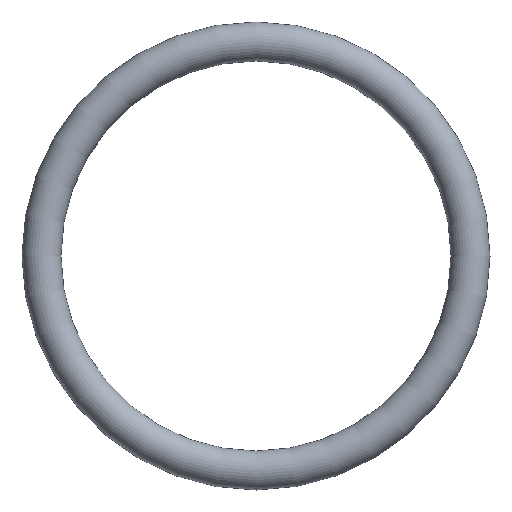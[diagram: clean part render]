
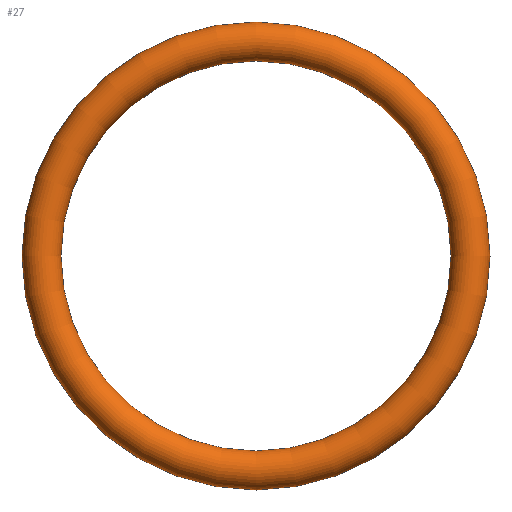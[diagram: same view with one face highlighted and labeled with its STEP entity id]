
A CAD part, front view. The second image highlights one B-rep face of the part: STEP entity #27.
In plain terms, the highlighted toroidal (fillet/blend) face has major radius 8.255 mm and minor radius 0.749 mm.
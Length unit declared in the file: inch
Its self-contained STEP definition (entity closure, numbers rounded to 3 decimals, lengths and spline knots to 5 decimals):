
#15=FACE_OUTER_BOUND('',#16,.T.);
#16=EDGE_LOOP('',(#22,#23,#24,#25));
#17=CIRCLE('',#43,0.0295);
#18=CIRCLE('',#44,0.2955);
#19=VERTEX_POINT('',#55);
#20=EDGE_CURVE('',#19,#19,#17,.T.);
#21=EDGE_CURVE('',#19,#19,#18,.T.);
#22=ORIENTED_EDGE('',*,*,#20,.F.);
#23=ORIENTED_EDGE('',*,*,#21,.T.);
#24=ORIENTED_EDGE('',*,*,#20,.T.);
#25=ORIENTED_EDGE('',*,*,#21,.F.);
#26=TOROIDAL_SURFACE('',#42,0.325,0.0295);
#27=ADVANCED_FACE('',(#15),#26,.T.);
#42=AXIS2_PLACEMENT_3D('',#54,#47,#48);
#43=AXIS2_PLACEMENT_3D('',#56,#49,#50);
#44=AXIS2_PLACEMENT_3D('',#57,#51,#52);
#47=DIRECTION('center_axis',(0.,-1.,0.));
#48=DIRECTION('ref_axis',(0.,0.,-1.));
#49=DIRECTION('center_axis',(-1.,0.,0.));
#50=DIRECTION('ref_axis',(0.,0.,1.));
#51=DIRECTION('center_axis',(0.,1.,0.));
#52=DIRECTION('ref_axis',(0.,0.,-1.));
#54=CARTESIAN_POINT('Origin',(0.,0.,0.));
#55=CARTESIAN_POINT('',(0.,0.,0.2955));
#56=CARTESIAN_POINT('Origin',(0.,0.,0.325));
#57=CARTESIAN_POINT('Origin',(0.,0.,0.));
